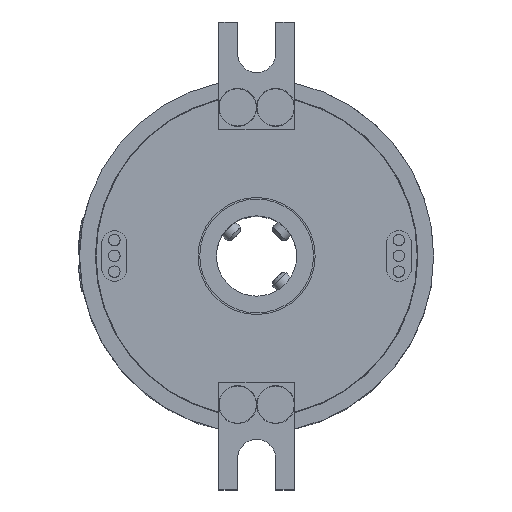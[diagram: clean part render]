
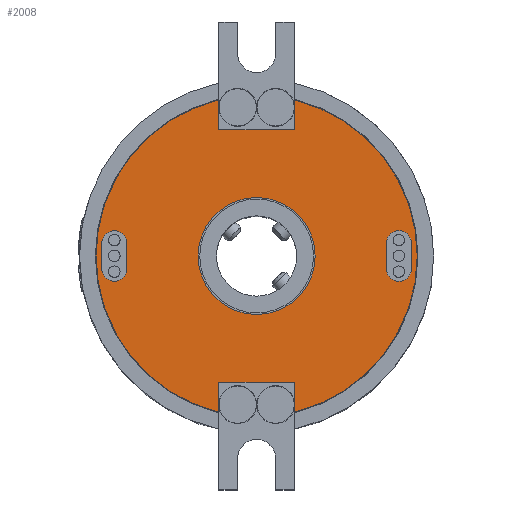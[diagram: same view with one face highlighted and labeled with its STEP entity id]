
A CAD part, top view. The second image highlights one B-rep face of the part: STEP entity #2008.
In plain terms, the highlighted planar face has unit normal (0, 0, 1).
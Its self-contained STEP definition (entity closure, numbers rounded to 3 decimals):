
#336=FACE_BOUND('',#5129,.T.);
#337=FACE_BOUND('',#5130,.T.);
#338=FACE_BOUND('',#5131,.T.);
#339=FACE_BOUND('',#5132,.T.);
#537=CIRCLE('',#17050,2.);
#538=CIRCLE('',#17053,2.);
#539=CIRCLE('',#17061,25.4);
#540=CIRCLE('',#17062,25.4);
#541=CIRCLE('',#17065,9.25);
#542=CIRCLE('',#17067,2.);
#543=CIRCLE('',#17068,2.);
#952=PLANE('',#17069);
#1241=LINE('',#33185,#3305);
#1244=LINE('',#33193,#3308);
#1246=LINE('',#33197,#3310);
#1248=LINE('',#33201,#3312);
#1249=LINE('',#33203,#3313);
#1251=LINE('',#33207,#3315);
#1253=LINE('',#33211,#3317);
#1254=LINE('',#33216,#3318);
#1255=LINE('',#33224,#3319);
#1256=LINE('',#33228,#3320);
#2008=ADVANCED_FACE('',(#336,#337,#338,#339),#952,.T.);
#3305=VECTOR('',#18973,1.);
#3308=VECTOR('',#18982,1.);
#3310=VECTOR('',#18986,1.);
#3312=VECTOR('',#18990,1.);
#3313=VECTOR('',#18993,1.);
#3315=VECTOR('',#18997,1.);
#3317=VECTOR('',#19001,1.);
#3318=VECTOR('',#19010,1.);
#3319=VECTOR('',#19019,1.);
#3320=VECTOR('',#19022,1.);
#5129=EDGE_LOOP('',(#8834,#8835,#8836,#8837));
#5130=EDGE_LOOP('',(#8838));
#5131=EDGE_LOOP('',(#8839,#8840,#8841,#8842,#8843,#8844,#8845,#8846));
#5132=EDGE_LOOP('',(#8847,#8848,#8849,#8850));
#8834=ORIENTED_EDGE('',*,*,#13762,.F.);
#8835=ORIENTED_EDGE('',*,*,#13763,.F.);
#8836=ORIENTED_EDGE('',*,*,#13764,.F.);
#8837=ORIENTED_EDGE('',*,*,#13765,.F.);
#8838=ORIENTED_EDGE('',*,*,#13761,.F.);
#8839=ORIENTED_EDGE('',*,*,#13760,.F.);
#8840=ORIENTED_EDGE('',*,*,#13758,.F.);
#8841=ORIENTED_EDGE('',*,*,#13757,.F.);
#8842=ORIENTED_EDGE('',*,*,#13755,.F.);
#8843=ORIENTED_EDGE('',*,*,#13753,.F.);
#8844=ORIENTED_EDGE('',*,*,#13759,.F.);
#8845=ORIENTED_EDGE('',*,*,#13752,.F.);
#8846=ORIENTED_EDGE('',*,*,#13750,.F.);
#8847=ORIENTED_EDGE('',*,*,#13748,.T.);
#8848=ORIENTED_EDGE('',*,*,#13746,.T.);
#8849=ORIENTED_EDGE('',*,*,#13744,.T.);
#8850=ORIENTED_EDGE('',*,*,#13742,.T.);
#11471=VERTEX_POINT('',#33141);
#11472=VERTEX_POINT('',#33143);
#11476=VERTEX_POINT('',#33156);
#11477=VERTEX_POINT('',#33158);
#11481=VERTEX_POINT('',#33180);
#11482=VERTEX_POINT('',#33182);
#11483=VERTEX_POINT('',#33186);
#11484=VERTEX_POINT('',#33190);
#11485=VERTEX_POINT('',#33196);
#11486=VERTEX_POINT('',#33198);
#11487=VERTEX_POINT('',#33204);
#11488=VERTEX_POINT('',#33208);
#11489=VERTEX_POINT('',#33219);
#11490=VERTEX_POINT('',#33222);
#11491=VERTEX_POINT('',#33223);
#11492=VERTEX_POINT('',#33225);
#11493=VERTEX_POINT('',#33227);
#13742=EDGE_CURVE('',#11482,#11481,#537,.T.);
#13744=EDGE_CURVE('',#11483,#11482,#1241,.T.);
#13746=EDGE_CURVE('',#11484,#11483,#538,.T.);
#13748=EDGE_CURVE('',#11481,#11484,#1244,.T.);
#13750=EDGE_CURVE('',#11485,#11486,#1246,.T.);
#13752=EDGE_CURVE('',#11486,#11476,#1248,.T.);
#13753=EDGE_CURVE('',#11472,#11487,#1249,.T.);
#13755=EDGE_CURVE('',#11487,#11488,#1251,.T.);
#13757=EDGE_CURVE('',#11488,#11471,#1253,.T.);
#13758=EDGE_CURVE('',#11471,#11477,#539,.T.);
#13759=EDGE_CURVE('',#11476,#11472,#540,.T.);
#13760=EDGE_CURVE('',#11477,#11485,#1254,.T.);
#13761=EDGE_CURVE('',#11489,#11489,#541,.T.);
#13762=EDGE_CURVE('',#11490,#11491,#542,.T.);
#13763=EDGE_CURVE('',#11492,#11490,#1255,.T.);
#13764=EDGE_CURVE('',#11493,#11492,#543,.T.);
#13765=EDGE_CURVE('',#11491,#11493,#1256,.T.);
#17050=AXIS2_PLACEMENT_3D('',#33181,#18968,#18969);
#17053=AXIS2_PLACEMENT_3D('',#33189,#18977,#18978);
#17061=AXIS2_PLACEMENT_3D('',#33213,#19004,#19005);
#17062=AXIS2_PLACEMENT_3D('',#33214,#19006,#19007);
#17065=AXIS2_PLACEMENT_3D('',#33218,#19013,#19014);
#17067=AXIS2_PLACEMENT_3D('',#33221,#19017,#19018);
#17068=AXIS2_PLACEMENT_3D('',#33226,#19020,#19021);
#17069=AXIS2_PLACEMENT_3D('',#33229,#19023,#19024);
#18968=DIRECTION('',(0.,0.,-1.));
#18969=DIRECTION('',(1.,0.,0.));
#18973=DIRECTION('',(0.,-1.,0.));
#18977=DIRECTION('',(0.,0.,-1.));
#18978=DIRECTION('',(1.,0.,0.));
#18982=DIRECTION('',(0.,1.,0.));
#18986=DIRECTION('',(-1.,0.,0.));
#18990=DIRECTION('',(0.,-1.,0.));
#18993=DIRECTION('',(0.,-1.,0.));
#18997=DIRECTION('',(1.,0.,0.));
#19001=DIRECTION('',(0.,1.,0.));
#19004=DIRECTION('',(0.,0.,-1.));
#19005=DIRECTION('',(1.,0.,0.));
#19006=DIRECTION('',(0.,0.,-1.));
#19007=DIRECTION('',(1.,0.,0.));
#19010=DIRECTION('',(0.,1.,0.));
#19013=DIRECTION('',(0.,0.,1.));
#19014=DIRECTION('',(1.,0.,0.));
#19017=DIRECTION('',(0.,0.,1.));
#19018=DIRECTION('',(1.,0.,0.));
#19019=DIRECTION('',(0.,1.,0.));
#19020=DIRECTION('',(0.,0.,1.));
#19021=DIRECTION('',(1.,0.,0.));
#19022=DIRECTION('',(0.,-1.,0.));
#19023=DIRECTION('',(0.,0.,1.));
#19024=DIRECTION('',(1.,0.,0.));
#33141=CARTESIAN_POINT('',(6.,24.681,60.5));
#33143=CARTESIAN_POINT('',(-6.,24.681,60.5));
#33156=CARTESIAN_POINT('',(-6.,-24.681,60.5));
#33158=CARTESIAN_POINT('',(6.,-24.681,60.5));
#33180=CARTESIAN_POINT('',(-24.5,-2.,60.5));
#33181=CARTESIAN_POINT('',(-22.5,-2.,60.5));
#33182=CARTESIAN_POINT('',(-20.5,-2.,60.5));
#33185=CARTESIAN_POINT('',(-20.5,-1.,60.5));
#33186=CARTESIAN_POINT('',(-20.5,2.,60.5));
#33189=CARTESIAN_POINT('',(-22.5,2.,60.5));
#33190=CARTESIAN_POINT('',(-24.5,2.,60.5));
#33193=CARTESIAN_POINT('',(-24.5,-1.,60.5));
#33196=CARTESIAN_POINT('',(6.,-20.,60.5));
#33197=CARTESIAN_POINT('',(0.,-20.,60.5));
#33198=CARTESIAN_POINT('',(-6.,-20.,60.5));
#33201=CARTESIAN_POINT('',(-6.,-20.,60.5));
#33203=CARTESIAN_POINT('',(-6.,37.,60.5));
#33204=CARTESIAN_POINT('',(-6.,20.,60.5));
#33207=CARTESIAN_POINT('',(0.,20.,60.5));
#33208=CARTESIAN_POINT('',(6.,20.,60.5));
#33211=CARTESIAN_POINT('',(6.,20.,60.5));
#33213=CARTESIAN_POINT('',(0.,0.,60.5));
#33214=CARTESIAN_POINT('',(0.,0.,60.5));
#33216=CARTESIAN_POINT('',(6.,-37.,60.5));
#33218=CARTESIAN_POINT('',(0.,0.,60.5));
#33219=CARTESIAN_POINT('',(9.25,0.,60.5));
#33221=CARTESIAN_POINT('',(22.5,2.,60.5));
#33222=CARTESIAN_POINT('',(24.5,2.,60.5));
#33223=CARTESIAN_POINT('',(20.5,2.,60.5));
#33224=CARTESIAN_POINT('',(24.5,0.,60.5));
#33225=CARTESIAN_POINT('',(24.5,-2.,60.5));
#33226=CARTESIAN_POINT('',(22.5,-2.,60.5));
#33227=CARTESIAN_POINT('',(20.5,-2.,60.5));
#33228=CARTESIAN_POINT('',(20.5,0.,60.5));
#33229=CARTESIAN_POINT('',(0.,0.,60.5));
